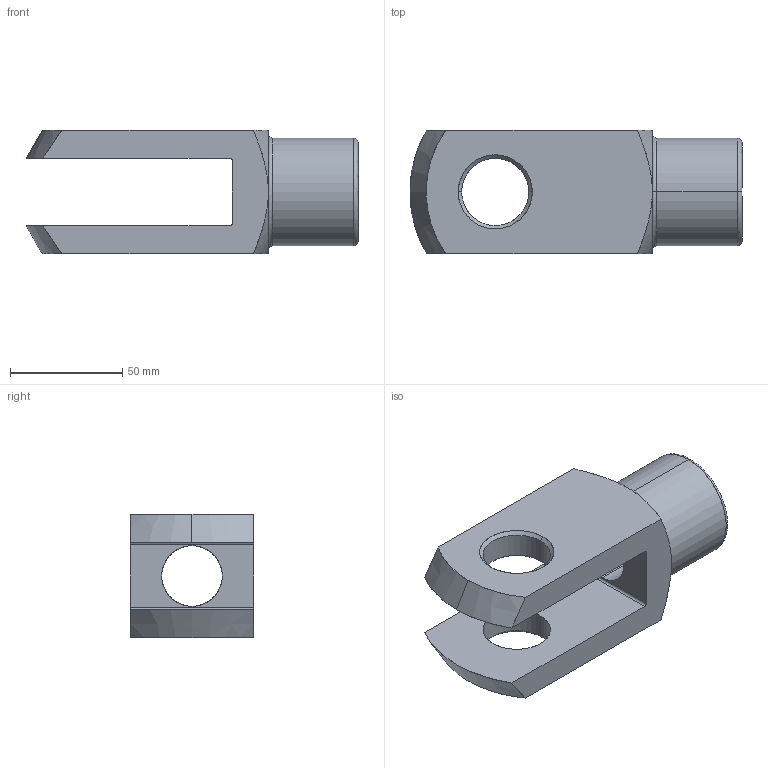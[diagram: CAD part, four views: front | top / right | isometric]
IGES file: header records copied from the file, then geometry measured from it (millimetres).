
Start section: SolidWorks IGES file using analytic representation for surfaces
Global section: file name: C:\Documents and Settings\IANO\My Documents\Wix and Auto CAD Work\CAD Models\Parametric Models\Wix Models\60000\65635_v2\65635_v2_IGES\65635.W0305.igs; native system: SolidWorks 2009; preprocessor: SolidWorks 2009; author: IANO; date: 140117.130849; units: millimetre
Bounding box: 148 x 55 x 55 mm (x, y, z)
Surface area: 41004.1 mm2 (no closed solid volume)
Topology: 0 solids, 0 shells, 36 faces, 860 edges, 860 vertices
Faces by surface type: revolution 23, bspline 13
